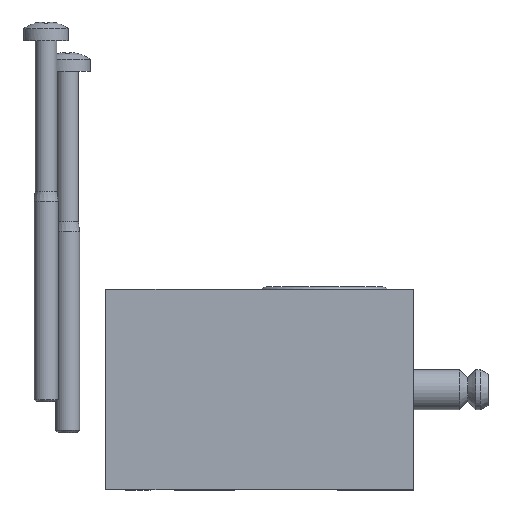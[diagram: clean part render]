
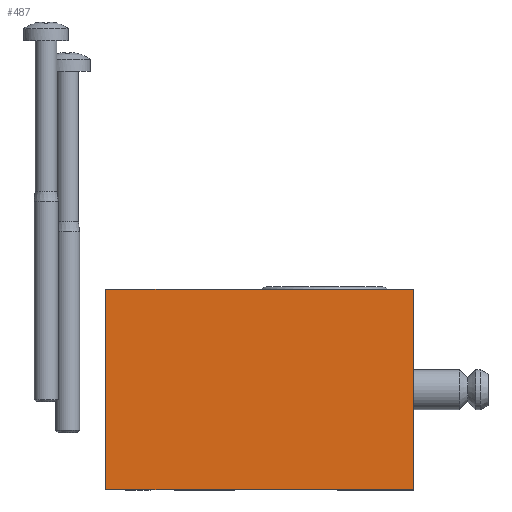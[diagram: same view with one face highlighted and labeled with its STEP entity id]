
A CAD part, front view. The second image highlights one B-rep face of the part: STEP entity #487.
In plain terms, the highlighted planar face has unit normal (0, -1, 0) as drawn and (0, 0, -1) by its records, which use the part's own axes.
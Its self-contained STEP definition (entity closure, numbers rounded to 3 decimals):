
#311 = EDGE_CURVE( '    LINE', #726, #727, #728, .T. );
#398 = EDGE_CURVE( '    LINE', #869, #726, #870, .T. );
#424 = EDGE_CURVE( '    LINE', #869, #910, #911, .T. );
#487 = ADVANCED_FACE( '    FACE', ( #1002 ), #1003, .T. );
#594 = EDGE_CURVE( '    LINE', #910, #727, #1171, .T. );
#726 = VERTEX_POINT( '', #1282 );
#727 = VERTEX_POINT( '', #1283 );
#728 = LINE( '', #1284, #1285 );
#869 = VERTEX_POINT( '', #1599 );
#870 = LINE( '', #1600, #1601 );
#910 = VERTEX_POINT( '', #1709 );
#911 = LINE( '', #1710, #1711 );
#1002 = FACE_OUTER_BOUND( '', #1894, .T. );
#1003 = PLANE( '', #1895 );
#1171 = LINE( '', #2102, #2103 );
#1282 = CARTESIAN_POINT( '', ( 110.603, -46.919, -71.959 ) );
#1283 = CARTESIAN_POINT( '', ( 110.603, -71.919, -71.959 ) );
#1284 = CARTESIAN_POINT( '', ( 110.603, -46.919, -71.959 ) );
#1285 = VECTOR( '', #2239, 1000. );
#1599 = CARTESIAN_POINT( '', ( 72.228, -46.919, -71.959 ) );
#1600 = CARTESIAN_POINT( '', ( 72.228, -46.919, -71.959 ) );
#1601 = VECTOR( '', #2493, 1000. );
#1709 = CARTESIAN_POINT( '', ( 72.228, -71.919, -71.959 ) );
#1710 = CARTESIAN_POINT( '', ( 72.228, -46.919, -71.959 ) );
#1711 = VECTOR( '', #2554, 1000. );
#1894 = EDGE_LOOP( '', ( #2682, #2683, #2684, #2685 ) );
#1895 = AXIS2_PLACEMENT_3D( '', #2686, #2687, #2688 );
#2102 = CARTESIAN_POINT( '', ( 72.228, -71.919, -71.959 ) );
#2103 = VECTOR( '', #2976, 1000. );
#2239 = DIRECTION( '', ( 0., -1., 0. ) );
#2493 = DIRECTION( '', ( 1., 0., 0. ) );
#2554 = DIRECTION( '', ( 0., -1., 0. ) );
#2682 = ORIENTED_EDGE( '', *, *, #424, .F. );
#2683 = ORIENTED_EDGE( '', *, *, #398, .T. );
#2684 = ORIENTED_EDGE( '', *, *, #311, .T. );
#2685 = ORIENTED_EDGE( '', *, *, #594, .F. );
#2686 = CARTESIAN_POINT( '', ( 72.228, -46.919, -71.959 ) );
#2687 = DIRECTION( '', ( 0., 0., -1. ) );
#2688 = DIRECTION( '', ( 1., 0., 0. ) );
#2976 = DIRECTION( '', ( 1., 0., 0. ) );
